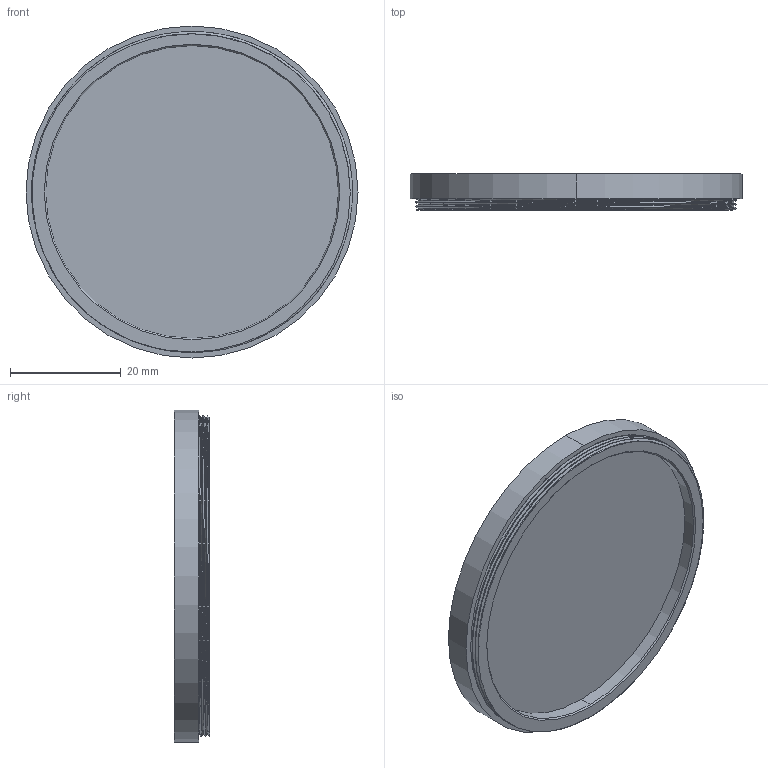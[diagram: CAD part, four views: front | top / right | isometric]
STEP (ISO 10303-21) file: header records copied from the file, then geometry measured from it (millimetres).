
FILE_DESCRIPTION (( 'STEP AP214' ), '1' );
FILE_NAME ('M58 x P0.75.STEP', '2023-01-19T08:18:13', ( '' ), ( '' ), 'SwSTEP 2.0', 'SolidWorks 2021', '' );
FILE_SCHEMA (( 'AUTOMOTIVE_DESIGN' ));
Length unit declared in the file: millimetre
Products named in the file (1): M58 x P0.75
Bounding box: 60 x 6.5 x 60 mm (x, y, z)
Volume: 3511.2 mm3; surface area: 9666.9 mm2
Topology: 3 solids, 3 shells, 45 faces, 103 edges, 68 vertices
Faces by surface type: cylinder 24, plane 11, bspline 8, cone 2
Entity records: 2841 total; most frequent: CARTESIAN_POINT 1870, ORIENTED_EDGE 206, DIRECTION 170, EDGE_CURVE 103, AXIS2_PLACEMENT_3D 72, VERTEX_POINT 68, EDGE_LOOP 53, ADVANCED_FACE 45
